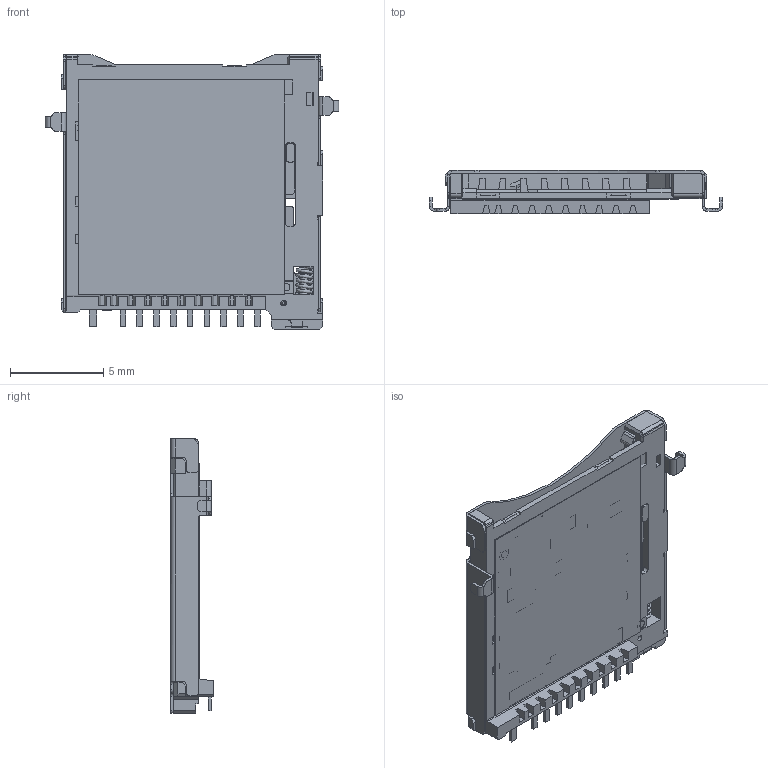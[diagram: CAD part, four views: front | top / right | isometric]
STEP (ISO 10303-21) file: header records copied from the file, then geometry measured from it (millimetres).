
FILE_DESCRIPTION((''),'2;1');
FILE_NAME('A0787_20200904_ASM','2020-09-10T',('Administrator'),(''),'PRO/ENGINEER BY PARAMETRIC TECHNOLOGY CORPORATION, 2011310','PRO/ENGINEER BY PARAMETRIC TECHNOLOGY CORPORATION, 2011310','');
FILE_SCHEMA(('CONFIG_CONTROL_DESIGN','SHAPE_APPEARANCE_LAYERS_GROUPS'));
Products named in the file (23): ____3; ____6; ____4; ____5; ____1; ____7; ____9; ____8; ____2; ____10; H2_3_TERMINAL_001__W___-1_ASM_A_ASM; H2_3_TERMINAL_1PCS_001__W____AS_ASM; H2_3_HOUSING_000-1; H2_3_MOLDING_1PCS_001______A__A_ASM; H2_3_SHELL_000__W___; H2_3_SLIDE_000; H16_23_SPRING_RELEASE_000; H16_23_LINK_000; H2_3_____M_____000_ASM_ASM_ASM; ASM0001_ASM_ASM; H2_3__000_ASM_ASM_ASM; H16_23_MYLAR_000; A0787_20200904_ASM
Assembly tree (22 placements, depth 8):
  A0787_20200904_ASM
    H2_3__000_ASM_ASM_ASM
      ASM0001_ASM_ASM
        H2_3_____M_____000_ASM_ASM_ASM
          H2_3_MOLDING_1PCS_001______A__A_ASM
            H2_3_TERMINAL_1PCS_001__W____AS_ASM
              H2_3_TERMINAL_001__W___-1_ASM_A_ASM
                ____3
                ____6
                ____4
                ____5
                ____1
                ____7
                ____9
                ____8
                ____2
                ____10
            H2_3_HOUSING_000-1
          H2_3_SHELL_000__W___
          H2_3_SLIDE_000
          H16_23_SPRING_RELEASE_000
          H16_23_LINK_000
    H16_23_MYLAR_000
Bounding box: 15.7 x 2.3 x 14.7 mm (x, y, z)
Volume: 144.2 mm3; surface area: 1463.7 mm2
Topology: 16 solids, 16 shells, 1634 faces, 4345 edges, 2749 vertices
Faces by surface type: plane 1077, cylinder 523, torus 12, bspline 11, cone 11
Entity records: 103751 total; most frequent: CARTESIAN_POINT 61633, DIRECTION 8823, ORIENTED_EDGE 8690, EDGE_CURVE 4345, VECTOR 3197, LINE 3197, AXIS2_PLACEMENT_3D 2813, VERTEX_POINT 2749
